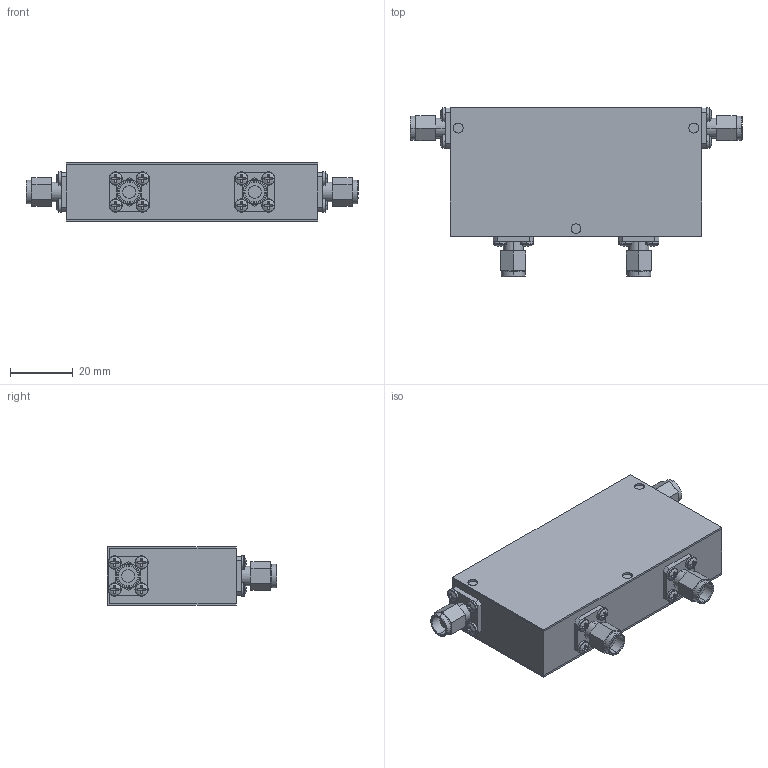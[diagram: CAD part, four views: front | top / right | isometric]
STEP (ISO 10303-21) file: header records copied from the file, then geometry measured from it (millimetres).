
FILE_DESCRIPTION (( 'STEP AP214' ), '1' );
FILE_NAME ('Package 12 Circ MMMM.step', '2021-12-01T20:57:10', ( '' ), ( '' ), 'SwSTEP 2.0', 'SolidWorks 2016', '' );
FILE_SCHEMA (( 'AUTOMOTIVE_DESIGN' ));
Length unit declared in the file: inch
Products named in the file (5): Package 12; Package 12 Circ MMMM; Package Size 12; Delta SMA-Male; pan cross head_ai_CR-PHMS 0.086-56x0.125x0.125-N
Assembly tree (22 placements, depth 2):
  Package 12 Circ MMMM
    Package 12
    pan cross head_ai_CR-PHMS 0.086-56x0.125x0.125-N  x16
    Delta SMA-Male  x4
    Package Size 12
Bounding box: 106.02 x 54.03 x 18.54 mm (x, y, z)
Volume: 63729.9 mm3; surface area: 31492.2 mm2
Topology: 22 solids, 22 shells, 584 faces, 1328 edges, 816 vertices
Faces by surface type: plane 340, cylinder 156, torus 56, sphere 32
Entity records: 3288 total; most frequent: DIRECTION 594, CARTESIAN_POINT 509, ORIENTED_EDGE 472, EDGE_CURVE 236, AXIS2_PLACEMENT_3D 235, VERTEX_POINT 150, EDGE_LOOP 124, VECTOR 124
